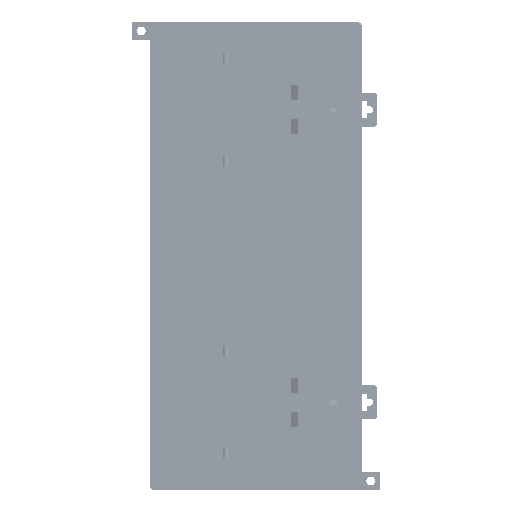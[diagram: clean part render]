
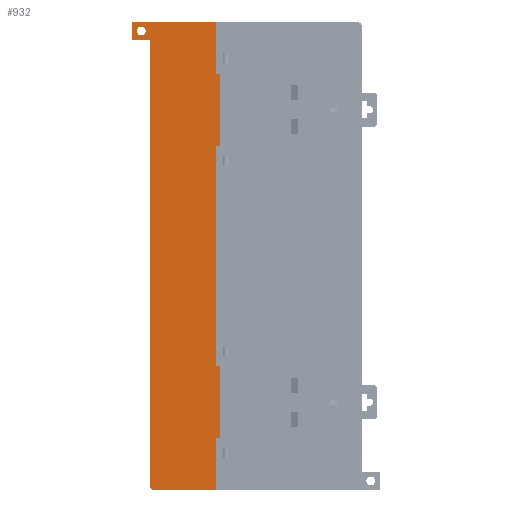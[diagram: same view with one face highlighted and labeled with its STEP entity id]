
A CAD part, left-side view. The second image highlights one B-rep face of the part: STEP entity #932.
In plain terms, the highlighted planar face has unit normal (-1, 0, 0).
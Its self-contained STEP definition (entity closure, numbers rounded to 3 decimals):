
#623 = VERTEX_POINT ( 'NONE', #67870 ) ;
#625 = VERTEX_POINT ( 'NONE', #67836 ) ;
#628 = VERTEX_POINT ( 'NONE', #67823 ) ;
#702 = VERTEX_POINT ( 'NONE', #67966 ) ;
#713 = VERTEX_POINT ( 'NONE', #68058 ) ;
#715 = EDGE_CURVE ( 'NONE', #713, #702, #68054, .T. ) ;
#716 = VERTEX_POINT ( 'NONE', #68041 ) ;
#798 = EDGE_CURVE ( 'NONE', #623, #628, #68233, .T. ) ;
#799 = VERTEX_POINT ( 'NONE', #68173 ) ;
#805 = EDGE_CURVE ( 'NONE', #799, #625, #68319, .T. ) ;
#917 = EDGE_CURVE ( 'NONE', #21125, #21013, #68511, .T. ) ;
#923 = EDGE_LOOP ( 'NONE', ( #939, #983 ) ) ;
#932 = ADVANCED_FACE ( 'NONE', ( #68501, #68516 ), #68495, .T. ) ;
#935 = ORIENTED_EDGE ( 'NONE', *, *, #941, .T. ) ;
#939 = ORIENTED_EDGE ( 'NONE', *, *, #21134, .F. ) ;
#941 = EDGE_CURVE ( 'NONE', #24091, #716, #68518, .T. ) ;
#949 = EDGE_LOOP ( 'NONE', ( #952, #935, #1238, #1163, #1167, #1133, #1128, #1255, #1142, #1245, #1106, #1243, #1146, #1234, #1154 ) ) ;
#952 = ORIENTED_EDGE ( 'NONE', *, *, #24253, .F. ) ;
#983 = ORIENTED_EDGE ( 'NONE', *, *, #917, .F. ) ;
#1106 = ORIENTED_EDGE ( 'NONE', *, *, #1235, .T. ) ;
#1107 = EDGE_CURVE ( 'NONE', #1144, #24326, #66763, .T. ) ;
#1109 = EDGE_CURVE ( 'NONE', #1231, #702, #68992, .T. ) ;
#1128 = ORIENTED_EDGE ( 'NONE', *, *, #1239, .T. ) ;
#1130 = VERTEX_POINT ( 'NONE', #69001 ) ;
#1133 = ORIENTED_EDGE ( 'NONE', *, *, #1138, .F. ) ;
#1135 = EDGE_CURVE ( 'NONE', #716, #799, #69032, .T. ) ;
#1138 = EDGE_CURVE ( 'NONE', #1251, #1130, #69096, .T. ) ;
#1140 = EDGE_CURVE ( 'NONE', #1236, #1232, #69089, .T. ) ;
#1142 = ORIENTED_EDGE ( 'NONE', *, *, #1241, .F. ) ;
#1144 = VERTEX_POINT ( 'NONE', #69047 ) ;
#1146 = ORIENTED_EDGE ( 'NONE', *, *, #1109, .F. ) ;
#1147 = EDGE_CURVE ( 'NONE', #1231, #1144, #69051, .T. ) ;
#1154 = ORIENTED_EDGE ( 'NONE', *, *, #1107, .T. ) ;
#1163 = ORIENTED_EDGE ( 'NONE', *, *, #805, .T. ) ;
#1167 = ORIENTED_EDGE ( 'NONE', *, *, #1253, .F. ) ;
#1231 = VERTEX_POINT ( 'NONE', #69235 ) ;
#1232 = VERTEX_POINT ( 'NONE', #69200 ) ;
#1234 = ORIENTED_EDGE ( 'NONE', *, *, #1147, .T. ) ;
#1235 = EDGE_CURVE ( 'NONE', #1236, #713, #69329, .T. ) ;
#1236 = VERTEX_POINT ( 'NONE', #69191 ) ;
#1238 = ORIENTED_EDGE ( 'NONE', *, *, #1135, .T. ) ;
#1239 = EDGE_CURVE ( 'NONE', #1251, #623, #69320, .T. ) ;
#1241 = EDGE_CURVE ( 'NONE', #1232, #628, #69314, .T. ) ;
#1243 = ORIENTED_EDGE ( 'NONE', *, *, #715, .T. ) ;
#1245 = ORIENTED_EDGE ( 'NONE', *, *, #1140, .F. ) ;
#1251 = VERTEX_POINT ( 'NONE', #69237 ) ;
#1253 = EDGE_CURVE ( 'NONE', #1130, #625, #69334, .T. ) ;
#1255 = ORIENTED_EDGE ( 'NONE', *, *, #798, .T. ) ;
#21013 = VERTEX_POINT ( 'NONE', #115345 ) ;
#21125 = VERTEX_POINT ( 'NONE', #115809 ) ;
#21134 = EDGE_CURVE ( 'NONE', #21013, #21125, #115799, .T. ) ;
#24091 = VERTEX_POINT ( 'NONE', #122332 ) ;
#24253 = EDGE_CURVE ( 'NONE', #24091, #24326, #122520, .T. ) ;
#24326 = VERTEX_POINT ( 'NONE', #122611 ) ;
#66542 = VECTOR ( 'NONE', #66770, 1000. ) ;
#66544 = CARTESIAN_POINT ( 'NONE',  ( 0., 94., -8. ) ) ;
#66763 = LINE ( 'NONE', #66544, #66542 ) ;
#66770 = DIRECTION ( 'NONE',  ( 0., -1., 0. ) ) ;
#67823 = CARTESIAN_POINT ( 'NONE',  ( 0., 64.8, -55. ) ) ;
#67836 = CARTESIAN_POINT ( 'NONE',  ( 0., 64.8, -185. ) ) ;
#67870 = CARTESIAN_POINT ( 'NONE',  ( 0., 64.8, -153. ) ) ;
#67966 = CARTESIAN_POINT ( 'NONE',  ( 0., 64.8, 0. ) ) ;
#68034 = DIRECTION ( 'NONE',  ( 0., 0., 1. ) ) ;
#68036 = VECTOR ( 'NONE', #68034, 1000. ) ;
#68038 = CARTESIAN_POINT ( 'NONE',  ( 0., 64.8, -208. ) ) ;
#68041 = CARTESIAN_POINT ( 'NONE',  ( 0., 92., -208. ) ) ;
#68054 = LINE ( 'NONE', #68038, #68036 ) ;
#68058 = CARTESIAN_POINT ( 'NONE',  ( 0., 64.8, -23. ) ) ;
#68173 = CARTESIAN_POINT ( 'NONE',  ( 0., 64.8, -208. ) ) ;
#68218 = DIRECTION ( 'NONE',  ( 0., 0., 1. ) ) ;
#68219 = VECTOR ( 'NONE', #68218, 1000. ) ;
#68221 = CARTESIAN_POINT ( 'NONE',  ( 0., 64.8, -208. ) ) ;
#68233 = LINE ( 'NONE', #68221, #68219 ) ;
#68314 = DIRECTION ( 'NONE',  ( 0., 0., 1. ) ) ;
#68315 = VECTOR ( 'NONE', #68314, 1000. ) ;
#68318 = CARTESIAN_POINT ( 'NONE',  ( 0., 64.8, -208. ) ) ;
#68319 = LINE ( 'NONE', #68318, #68315 ) ;
#68462 = DIRECTION ( 'NONE',  ( 0., 0., 1. ) ) ;
#68463 = DIRECTION ( 'NONE',  ( -1., 0., 0. ) ) ;
#68464 = CARTESIAN_POINT ( 'NONE',  ( 0., 92., -206. ) ) ;
#68465 = AXIS2_PLACEMENT_3D ( 'NONE', #68464, #68463, #68462 ) ;
#68479 = DIRECTION ( 'NONE',  ( 0., 0., 1. ) ) ;
#68481 = DIRECTION ( 'NONE',  ( -1., 0., 0. ) ) ;
#68482 = CARTESIAN_POINT ( 'NONE',  ( 0., 64.8, -208. ) ) ;
#68484 = AXIS2_PLACEMENT_3D ( 'NONE', #68482, #68481, #68479 ) ;
#68495 = PLANE ( 'NONE',  #68484 ) ;
#68501 = FACE_BOUND ( 'NONE', #923, .T. ) ;
#68503 = DIRECTION ( 'NONE',  ( 0., 0., 1. ) ) ;
#68506 = DIRECTION ( 'NONE',  ( -1., 0., 0. ) ) ;
#68507 = CARTESIAN_POINT ( 'NONE',  ( 0., 98., -4. ) ) ;
#68509 = AXIS2_PLACEMENT_3D ( 'NONE', #68507, #68506, #68503 ) ;
#68511 = CIRCLE ( 'NONE', #68509, 2. ) ;
#68516 = FACE_OUTER_BOUND ( 'NONE', #949, .T. ) ;
#68518 = CIRCLE ( 'NONE', #68465, 2. ) ;
#68989 = DIRECTION ( 'NONE',  ( 0., -1., 0. ) ) ;
#68990 = VECTOR ( 'NONE', #68989, 1000. ) ;
#68991 = CARTESIAN_POINT ( 'NONE',  ( 0., 64.8, 0. ) ) ;
#68992 = LINE ( 'NONE', #68991, #68990 ) ;
#69001 = CARTESIAN_POINT ( 'NONE',  ( 0., 62.8, -185. ) ) ;
#69029 = DIRECTION ( 'NONE',  ( 0., -1., 0. ) ) ;
#69030 = VECTOR ( 'NONE', #69029, 1000. ) ;
#69032 = LINE ( 'NONE', #69045, #69030 ) ;
#69045 = CARTESIAN_POINT ( 'NONE',  ( 0., 64.8, -208. ) ) ;
#69047 = CARTESIAN_POINT ( 'NONE',  ( 0., 102., -8. ) ) ;
#69051 = LINE ( 'NONE', #69071, #69070 ) ;
#69069 = DIRECTION ( 'NONE',  ( 0., 0., -1. ) ) ;
#69070 = VECTOR ( 'NONE', #69069, 1000. ) ;
#69071 = CARTESIAN_POINT ( 'NONE',  ( 0., 102., 0. ) ) ;
#69081 = DIRECTION ( 'NONE',  ( 0., 0., -1. ) ) ;
#69082 = VECTOR ( 'NONE', #69081, 1000. ) ;
#69088 = CARTESIAN_POINT ( 'NONE',  ( 0., 62.8, -23. ) ) ;
#69089 = LINE ( 'NONE', #69088, #69082 ) ;
#69092 = DIRECTION ( 'NONE',  ( 0., 0., -1. ) ) ;
#69094 = VECTOR ( 'NONE', #69092, 1000. ) ;
#69095 = CARTESIAN_POINT ( 'NONE',  ( 0., 62.8, -185. ) ) ;
#69096 = LINE ( 'NONE', #69095, #69094 ) ;
#69191 = CARTESIAN_POINT ( 'NONE',  ( 0., 62.8, -23. ) ) ;
#69199 = CARTESIAN_POINT ( 'NONE',  ( 0., 62.8, -185. ) ) ;
#69200 = CARTESIAN_POINT ( 'NONE',  ( 0., 62.8, -55. ) ) ;
#69235 = CARTESIAN_POINT ( 'NONE',  ( 0., 102., 0. ) ) ;
#69237 = CARTESIAN_POINT ( 'NONE',  ( 0., 62.8, -153. ) ) ;
#69293 = DIRECTION ( 'NONE',  ( 0., 1., 0. ) ) ;
#69295 = VECTOR ( 'NONE', #69293, 1000. ) ;
#69304 = DIRECTION ( 'NONE',  ( 0., 1., 0. ) ) ;
#69305 = VECTOR ( 'NONE', #69304, 1000. ) ;
#69307 = CARTESIAN_POINT ( 'NONE',  ( 0., 62.8, -55. ) ) ;
#69314 = LINE ( 'NONE', #69307, #69305 ) ;
#69315 = DIRECTION ( 'NONE',  ( 0., 1., 0. ) ) ;
#69317 = VECTOR ( 'NONE', #69315, 1000. ) ;
#69319 = CARTESIAN_POINT ( 'NONE',  ( 0., 62.8, -153. ) ) ;
#69320 = LINE ( 'NONE', #69319, #69317 ) ;
#69323 = DIRECTION ( 'NONE',  ( 0., 1., 0. ) ) ;
#69325 = VECTOR ( 'NONE', #69323, 1000. ) ;
#69327 = CARTESIAN_POINT ( 'NONE',  ( 0., 62.8, -23. ) ) ;
#69329 = LINE ( 'NONE', #69327, #69325 ) ;
#69334 = LINE ( 'NONE', #69199, #69295 ) ;
#115345 = CARTESIAN_POINT ( 'NONE',  ( 0., 98., -6. ) ) ;
#115683 = DIRECTION ( 'NONE',  ( -1., 0., 0. ) ) ;
#115697 = CARTESIAN_POINT ( 'NONE',  ( 0., 98., -4. ) ) ;
#115733 = AXIS2_PLACEMENT_3D ( 'NONE', #115697, #115683, #115791 ) ;
#115791 = DIRECTION ( 'NONE',  ( 0., 0., 1. ) ) ;
#115799 = CIRCLE ( 'NONE', #115733, 2. ) ;
#115809 = CARTESIAN_POINT ( 'NONE',  ( 0., 98., -2. ) ) ;
#122332 = CARTESIAN_POINT ( 'NONE',  ( 0., 94., -206. ) ) ;
#122517 = DIRECTION ( 'NONE',  ( 0., 0., 1. ) ) ;
#122518 = VECTOR ( 'NONE', #122517, 1000. ) ;
#122520 = LINE ( 'NONE', #122537, #122518 ) ;
#122537 = CARTESIAN_POINT ( 'NONE',  ( 0., 94., -208. ) ) ;
#122611 = CARTESIAN_POINT ( 'NONE',  ( 0., 94., -8. ) ) ;
